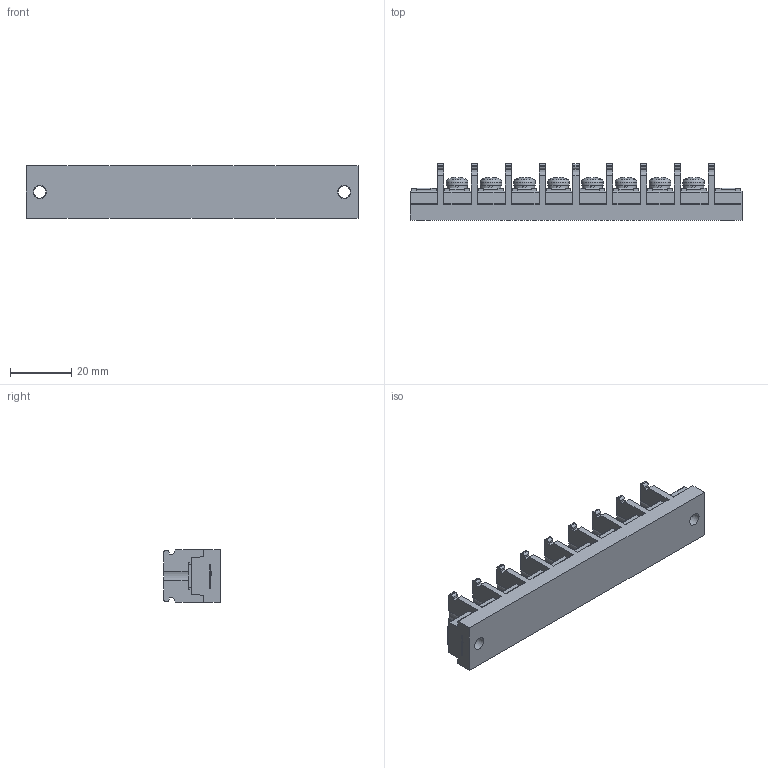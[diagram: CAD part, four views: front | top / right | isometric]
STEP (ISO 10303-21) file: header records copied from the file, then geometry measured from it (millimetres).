
FILE_DESCRIPTION(/* description */ ('Alibre Inc.'),/* implementation_level */ '2;1');
FILE_NAME(/* name */ 'export0',/* time_stamp */ '2015-10-19T19:23:57+09:00',/* author */ (''),/* organization */ (''),/* preprocessor_version */ 'ST-DEVELOPER v14',/* originating_system */ 'Alibre',/* authorisation */ '');
FILE_SCHEMA (('CONFIG_CONTROL_DESIGN'));
Length unit declared in the file: centimetre
Products named in the file (1): ID_1
Bounding box: 108 x 18.5 x 17 mm (x, y, z)
Volume: 19441.4 mm3; surface area: 10784.1 mm2
Topology: 1 solids, 1 shells, 1004 faces, 2804 edges, 1862 vertices
Faces by surface type: plane 702, cylinder 142, bspline 104, cone 32, torus 16, sphere 8
Full cylindrical faces by diameter (mm): 4 x10, 4.2 x2, 6.5 x8, 7 x8
Entity records: 31226 total; most frequent: CARTESIAN_POINT 6745, ORIENTED_EDGE 5484, DIRECTION 4057, EDGE_CURVE 2742, VECTOR 1933, LINE 1933, VERTEX_POINT 1836, AXIS2_PLACEMENT_3D 1408
